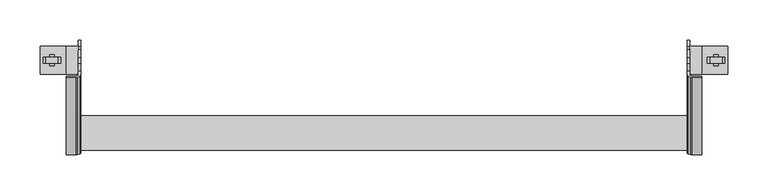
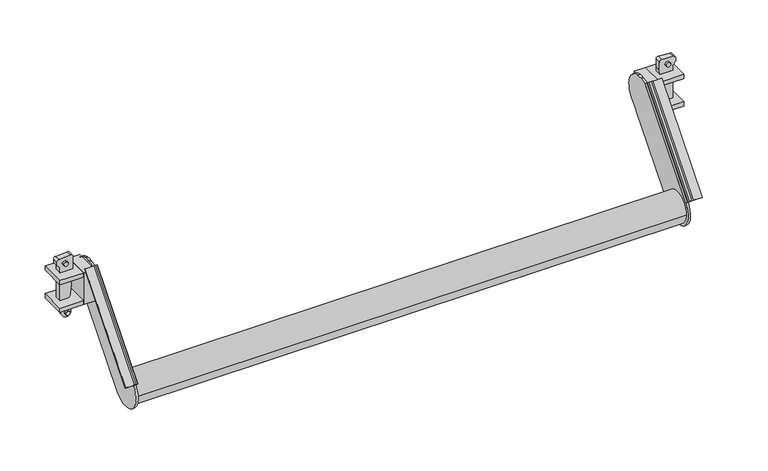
"""IFC4 building model written with IfcOpenShell, lengths in millimetres: proxy geometry, アルバトロスＡＫ階段受け_軽 : アルバトロスＡＫ階段受けL=900."""

from ifc_helpers import new_model, si_unit, point, frame, frame_2d, origin, place, context, project, spatial, polyline, circle_curve, trimmed, segment, composite_curve, outline, extrude, source, transform, mapped, element, save
from ifc_brep_helpers import plane_surface, cylinder_surface, revolved_surface, advanced_brep


def generic_models_1110d281(model_context):
    return source(origin(), model_context, "Body", "SolidModel", [
        extrude(outline(composite_curve([segment(trimmed(circle_curve(frame_2d((11.8000984, -9.7357724)), 9.7357724), [point((11.8000984, 0.0))], [point((14.2492943, -0.3131027))], False, "CARTESIAN"), True, "CONTINUOUS"), segment(trimmed(circle_curve(frame_2d((12.9630797, -6.2319614)), 6.0569989), [point((14.2492943, -0.3131027))], [point((17.1215477, -1.8280564))], False, "CARTESIAN"), True, "CONTINUOUS"), segment(trimmed(circle_curve(frame_2d((14.7414988, -4.3485782)), 3.4666502), [point((17.1215477, -1.8280564))], [point((18.2001533, -4.113266))], False, "CARTESIAN"), True, "CONTINUOUS"), segment(polyline([(18.2001533, -4.113266), (18.2001533, -4.9115919), (18.2001533, -10.0000796), (15.0001259, -10.0000796), (15.0001259, -4.2792333)]), True, "CONTINUOUS"), segment(trimmed(circle_curve(frame_2d((13.1269546, -4.2792333)), 1.8731712), [point((15.0001259, -4.2792333))], [point((14.1616095, -2.7177405))], True, "CARTESIAN"), True, "CONTINUOUS"), segment(trimmed(circle_curve(frame_2d((12.2844233, -5.5507747)), 3.398516), [point((14.1616095, -2.7177405))], [point((13.1884404, -2.2747002))], True, "CARTESIAN"), True, "CONTINUOUS"), segment(trimmed(circle_curve(frame_2d((11.8000984, -6.5851611)), 4.5285281), [point((13.1884404, -2.2747002))], [point((11.8000984, -2.056633))], True, "CARTESIAN"), True, "CONTINUOUS"), segment(polyline([(11.8000984, -2.056633), (0.0, -2.056633), (0.0, 0.0), (11.8000984, 0.0)]), True, "CONTINUOUS")], self_intersect=False)), frame((845.2046585, -117.4153513, -83.5064838), z_axis=(0.0, 0.6426904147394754, 0.766125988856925), x_axis=(-1.0, 0.0, 0.0)), (0.0, 0.0, 1.0), 149.5729326),
        advanced_brep(
        [(827.0045052, -71.4170946, -122.0320182), (827.0045052, -109.7540265, -89.9334299), (827.0045052, -19.1532386, 18.0674174), (827.0045052, -13.564759, 23.0001302), (827.0045052, -4.0000184, 26.6780861), (827.0045052, 4.0000533, 26.678085), (827.0045052, 13.5647929, 23.0001265), (827.0045052, 17.5001651, 19.8536704), (827.0045052, 19.1532686, -14.0675085), (827.0045052, 11.6596821, -23.0002552), (827.0045052, 4.0001362, -32.1309487), (827.0045052, -4.000061, -41.6673923), (830.2045326, -71.4170946, -122.0320182), (830.2045326, -4.000061, -41.6673923), (830.2045326, 4.0672955, -32.0506818), (830.2045326, 11.6596821, -23.0002552), (830.2045326, 19.1532686, -14.0675085), (830.2045326, 17.5001651, 19.8536704), (830.2045326, 13.5647929, 23.0001265), (830.2045326, 4.0000533, 26.678085), (830.2045326, -4.0000184, 26.6780861), (830.2045326, -13.564759, 23.0001302), (830.2045326, -19.1532386, 18.0674174), (830.2045326, -109.7540271, -89.9334352)],
        [
            (0, 1, circle_curve(frame((827.0045052, -90.600769, -106.0008883), z_axis=(-1.0, 0.0, 0.0), x_axis=(0.0, 1.0, 0.0)), 25.0002098)),
            (1, 2),
            (2, 3, circle_curve(frame((827.0045052, 1.42e-05, 1.9999535), z_axis=(-1.0, 0.0, 0.0), x_axis=(0.0, 1.0, 0.0)), 25.0002098)),
            (3, 4, circle_curve(frame((827.0045052, 1.42e-05, 1.9999535), z_axis=(-1.0, 0.0, 0.0), x_axis=(0.0, 1.0, 0.0)), 25.0002098)),
            (4, 5, circle_curve(frame((827.0045052, 1.42e-05, 1.9999535), z_axis=(-1.0, 0.0, 0.0), x_axis=(0.0, 1.0, 0.0)), 25.0002098)),
            (5, 6, circle_curve(frame((827.0045052, 1.42e-05, 1.9999535), z_axis=(-1.0, 0.0, 0.0), x_axis=(0.0, 1.0, 0.0)), 25.0002098)),
            (6, 7, circle_curve(frame((827.0045052, 1.42e-05, 1.9999535), z_axis=(-1.0, 0.0, 0.0), x_axis=(0.0, 1.0, 0.0)), 25.0002098)),
            (7, 8, circle_curve(frame((827.0045052, 1.42e-05, 1.9999535), z_axis=(-1.0, 0.0, 0.0), x_axis=(0.0, 1.0, 0.0)), 25.0002098)),
            (8, 9),
            (9, 10),
            (10, 11),
            (11, 0),
            (12, 13),
            (13, 14),
            (14, 15),
            (15, 16),
            (16, 17, circle_curve(frame((830.2045326, 1.42e-05, 1.9999535), z_axis=(1.0, 0.0, 0.0), x_axis=(0.0, 1.0, 0.0)), 25.0002098)),
            (17, 18, circle_curve(frame((830.2045326, 1.42e-05, 1.9999535), z_axis=(1.0, 0.0, 0.0), x_axis=(0.0, 1.0, 0.0)), 25.0002098)),
            (18, 19, circle_curve(frame((830.2045326, 1.42e-05, 1.9999535), z_axis=(1.0, 0.0, 0.0), x_axis=(0.0, 1.0, 0.0)), 25.0002098)),
            (19, 20, circle_curve(frame((830.2045326, 1.42e-05, 1.9999535), z_axis=(1.0, 0.0, 0.0), x_axis=(0.0, 1.0, 0.0)), 25.0002098)),
            (20, 21, circle_curve(frame((830.2045326, 1.42e-05, 1.9999535), z_axis=(1.0, 0.0, 0.0), x_axis=(0.0, 1.0, 0.0)), 25.0002098)),
            (21, 22, circle_curve(frame((830.2045326, 1.42e-05, 1.9999535), z_axis=(1.0, 0.0, 0.0), x_axis=(0.0, 1.0, 0.0)), 25.0002098)),
            (22, 23),
            (23, 12, circle_curve(frame((830.2045326, -90.600769, -106.0008883), z_axis=(1.0, 0.0, 0.0), x_axis=(0.0, 1.0, 0.0)), 25.0002098)),
            (11, 13),
            (12, 0),
            (10, 14),
            (9, 15),
            (8, 16),
            (7, 17),
            (6, 18),
            (5, 19),
            (4, 20),
            (3, 21),
            (2, 22),
            (1, 23),
        ],
        [
            plane_surface(frame((827.0045052, -65.6005592, -106.0008883), z_axis=(-1.0, 0.0, 0.0), x_axis=(0.0, 0.0, -1.0))),
            plane_surface(frame((830.2045326, -65.6005592, -106.0008883), z_axis=(1.0, 0.0, 0.0), x_axis=(0.0, 0.0, 1.0))),
            plane_surface(frame((827.0045052, -4.000061, -41.6673923), z_axis=(0.0, 0.7661237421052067, -0.6426930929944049), x_axis=(1.0, 0.0, 0.0))),
            plane_surface(frame((827.0045052, 4.0672955, -32.0506818), z_axis=(0.0, 0.7661237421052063, -0.6426930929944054), x_axis=(1.0, 0.0, 0.0))),
            plane_surface(frame((827.0045052, 11.6596821, -23.0002552), z_axis=(0.0, 0.76612771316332, -0.6426883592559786), x_axis=(1.0, 0.0, 0.0))),
            plane_surface(frame((827.0045052, 19.1532686, -14.0675085), z_axis=(0.0, 0.7661237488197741, -0.6426930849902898), x_axis=(1.0, 0.0, 0.0))),
            cylinder_surface(frame((830.2045326, 1.42e-05, 1.9999535), z_axis=(-1.0, 0.0, 0.0), x_axis=(0.0, 1.0, 0.0)), 25.0002098),
            plane_surface(frame((827.0045052, -109.7540271, -89.9334352), z_axis=(0.0, -0.7661236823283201, 0.6426931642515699), x_axis=(1.0, 0.0, 0.0))),
            cylinder_surface(frame((830.2045326, -90.600769, -106.0008883), z_axis=(-1.0, 0.0, 0.0), x_axis=(0.0, 1.0, 0.0)), 25.0002098),
        ],
        [
            (0, [[1, 2, 3, 4, 5, 6, 7, 8, 9, 10, 11, 12]]),
            (1, [[13, 14, 15, 16, 17, 18, 19, 20, 21, 22, 23, 24]]),
            (2, [[-12, 25, -13, 26]]),
            (3, [[-11, 27, -14, -25]]),
            (4, [[-10, 28, -15, -27]]),
            (5, [[-9, 29, -16, -28]]),
            (6, [[-8, 30, -17, -29]]),
            (6, [[-7, 31, -18, -30]]),
            (6, [[-6, 32, -19, -31]]),
            (6, [[-5, 33, -20, -32]]),
            (6, [[-4, 34, -21, -33]]),
            (6, [[-3, 35, -22, -34]]),
            (7, [[-2, 36, -23, -35]]),
            (8, [[-1, -26, -24, -36]]),
        ],
    ),
        extrude(outline(composite_curve([segment(polyline([(-11.8000984, 0.0), (0.0, 0.0), (0.0, -2.056633), (-11.8000984, -2.056633)]), True, "CONTINUOUS"), segment(trimmed(circle_curve(frame_2d((-11.8000984, -6.5851611)), 4.5285281), [point((-11.8000984, -2.056633))], [point((-13.1884404, -2.2747002))], True, "CARTESIAN"), True, "CONTINUOUS"), segment(trimmed(circle_curve(frame_2d((-12.2844233, -5.5507747)), 3.398516), [point((-13.1884404, -2.2747002))], [point((-14.1616095, -2.7177405))], True, "CARTESIAN"), True, "CONTINUOUS"), segment(trimmed(circle_curve(frame_2d((-13.1269546, -4.2792333)), 1.8731712), [point((-14.1616095, -2.7177405))], [point((-15.0001259, -4.2792333))], True, "CARTESIAN"), True, "CONTINUOUS"), segment(polyline([(-15.0001259, -4.2792333), (-15.0001259, -10.0000796), (-18.2001533, -10.0000796), (-18.2001533, -4.9115919), (-18.2001533, -4.113266)]), True, "CONTINUOUS"), segment(trimmed(circle_curve(frame_2d((-14.7414988, -4.3485782)), 3.4666502), [point((-18.2001533, -4.113266))], [point((-17.1215477, -1.8280564))], False, "CARTESIAN"), True, "CONTINUOUS"), segment(trimmed(circle_curve(frame_2d((-12.9630797, -6.2319614)), 6.0569989), [point((-17.1215477, -1.8280564))], [point((-14.2492943, -0.3131027))], False, "CARTESIAN"), True, "CONTINUOUS"), segment(trimmed(circle_curve(frame_2d((-11.8000984, -9.7357724)), 9.7357724), [point((-14.2492943, -0.3131027))], [point((-11.8000984, 0.0))], False, "CARTESIAN"), True, "CONTINUOUS")], self_intersect=False)), frame((54.7953415, -117.4153513, -83.5064838), z_axis=(0.0, 0.6426904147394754, 0.766125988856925), x_axis=(-1.0, 0.0, 0.0)), (0.0, 0.0, 1.0), 149.5729326),
        extrude(outline(polyline([(830.2045326, -17.5001831), (830.2045326, 17.500061), (845.2046585, 17.500061), (845.2046585, -17.5001831), (830.2045326, -17.5001831)])), frame((0.0, 0.0, -23.0001931), z_axis=(0.0, 0.0, 1.0), x_axis=(1.0, 0.0, 0.0)), (0.0, 0.0, 1.0), 46.0003862),
        extrude(outline(polyline([(845.2046585, -17.5001831), (845.2046585, 17.500061), (877.7249298, 17.500061), (877.7249298, -17.5001831), (845.2046585, -17.5001831)])), frame((0.0, 0.0, -23.0001931), z_axis=(0.0, 0.0, 1.0), x_axis=(1.0, 0.0, 0.0)), (0.0, 0.0, 1.0), 6.0000505),
        extrude(outline(polyline([(845.2046585, -17.5001831), (845.2046585, 17.500061), (877.7249298, 17.500061), (877.7249298, -17.5001831), (845.2046585, -17.5001831)])), frame((0.0, 0.0, 17.0001426), z_axis=(0.0, 0.0, 1.0), x_axis=(1.0, 0.0, 0.0)), (0.0, 0.0, 1.0), 6.0000505),
        extrude(outline(composite_curve([segment(trimmed(circle_curve(frame_2d((-36.8688423, 860.6740685)), 3.000025), [point((-36.8688423, 863.6740935))], [point((-36.8688423, 857.6740435))], False, "CARTESIAN"), True, "CONTINUOUS"), segment(trimmed(circle_curve(frame_2d((-36.8688423, 860.6740685)), 3.000025), [point((-36.8688423, 857.6740435))], [point((-36.8688423, 863.6740935))], False, "CARTESIAN"), True, "CONTINUOUS")], self_intersect=False)), frame((0.0, -6.7180681, 0.0), z_axis=(0.0, 1.0, 0.0), x_axis=(0.0, 0.0, 1.0)), (0.0, 0.0, 1.0), 13.4905305),
        extrude(outline(composite_curve([segment(trimmed(circle_curve(frame_2d((35.318295, 863.1048088)), 3.000025), [point((35.318295, 866.1048338))], [point((35.318295, 860.1047838))], False, "CARTESIAN"), True, "CONTINUOUS"), segment(trimmed(circle_curve(frame_2d((35.318295, 863.1048088)), 3.000025), [point((35.318295, 860.1047838))], [point((35.318295, 866.1048338))], False, "CARTESIAN"), True, "CONTINUOUS")], self_intersect=False)), frame((0.0, -6.7180681, 0.0), z_axis=(0.0, 1.0, 0.0), x_axis=(0.0, 0.0, 1.0)), (0.0, 0.0, 1.0), 13.4905305),
        advanced_brep(
        [(870.104866, -4.000061, 23.0001931), (870.104866, -4.000061, 31.3182626), (874.1049004, -4.000061, 35.318295), (874.1049004, -4.000061, 40.1273351), (871.1049024, -4.000061, 43.1273601), (855.1047689, -4.000061, 44.0563686), (852.1047151, -4.000061, 41.0563436), (852.1047134, -4.000061, 29.3182692), (853.2329292, -4.000061, 17.0001426), (855.9327461, -4.000061, -12.4770955), (857.7334455, -4.000061, -17.0001397), (858.6987605, -4.000061, -23.0001924), (857.6076064, -4.000061, -31.3049199), (855.9855849, -4.000061, -33.6219485), (865.2963577, -4.000061, -41.1471163), (870.1048641, -4.000061, -28.9002414), (870.104866, -4.000061, -23.0001922), (870.104866, -4.000061, -17.0001426), (870.104866, -4.000061, 17.0001426), (870.104866, 4.000061, 23.0001931), (870.104866, 4.000061, 17.0001426), (870.104866, 4.000061, -17.0001426), (870.104866, 4.000061, -23.0001922), (870.104866, 4.000061, -28.9002414), (865.2963577, 4.000061, -41.1471163), (855.9855849, 4.000061, -33.6219485), (857.6076064, 4.000061, -31.3049199), (858.6987605, 4.000061, -23.0001924), (857.7334455, 4.000061, -17.0001397), (855.9327461, 4.000061, -12.4770955), (853.2329292, 4.000061, 17.0001426), (852.1047134, 4.000061, 29.3182692), (852.1047134, 4.000061, 41.0563436), (855.1047689, 4.000061, 44.0563686), (871.1049024, 4.000061, 43.1273601), (874.1048987, 4.000061, 40.1273351), (874.1049004, 4.000061, 35.318295), (870.104866, 4.000061, 31.3182626)],
        [
            (0, 1),
            (1, 2),
            (2, 3),
            (3, 4, circle_curve(frame((871.1048737, -4.000061, 40.1273351), z_axis=(0.0, -1.0, 0.0), x_axis=(-1.0, 0.0, 0.0)), 3.000025)),
            (4, 5),
            (5, 6, circle_curve(frame((855.1047401, -4.000061, 41.0563436), z_axis=(0.0, -1.0, 0.0), x_axis=(-1.0, 0.0, 0.0)), 3.000025)),
            (6, 7),
            (7, 8),
            (8, 9),
            (9, 10, circle_curve(frame((833.7162895, -4.000061, -23.9418044), z_axis=(0.0, 1.0, 0.0), x_axis=(-1.0, 0.0, 0.0)), 25.0002098)),
            (10, 11),
            (11, 12, circle_curve(frame((833.7162895, -4.000061, -23.9418044), z_axis=(0.0, 1.0, 0.0), x_axis=(-1.0, 0.0, 0.0)), 25.0002098)),
            (12, 13),
            (13, 14, circle_curve(frame((860.9008598, -4.000061, -37.0629764), z_axis=(0.0, -1.0, 0.0), x_axis=(-1.0, 0.0, 0.0)), 6.0000501)),
            (14, 15, circle_curve(frame((852.1047134, -4.000061, -28.9002414), z_axis=(0.0, -1.0, 0.0), x_axis=(-1.0, 0.0, 0.0)), 18.0001507)),
            (15, 16),
            (16, 17),
            (17, 18),
            (18, 0),
            (19, 20),
            (20, 21),
            (21, 22),
            (22, 23),
            (23, 24, circle_curve(frame((852.1047134, 4.000061, -28.9002414), z_axis=(0.0, 1.0, 0.0), x_axis=(-1.0, 0.0, 0.0)), 18.0001507)),
            (24, 25, circle_curve(frame((860.9008598, 4.000061, -37.0629764), z_axis=(0.0, 1.0, 0.0), x_axis=(-1.0, 0.0, 0.0)), 6.0000501)),
            (25, 26),
            (26, 27, circle_curve(frame((833.7162895, 4.000061, -23.9418044), z_axis=(0.0, -1.0, 0.0), x_axis=(-1.0, 0.0, 0.0)), 25.0002098)),
            (27, 28),
            (28, 29, circle_curve(frame((833.7162895, 4.000061, -23.9418044), z_axis=(0.0, -1.0, 0.0), x_axis=(-1.0, 0.0, 0.0)), 25.0002098)),
            (29, 30),
            (30, 31),
            (31, 32),
            (32, 33, circle_curve(frame((855.1047401, 4.000061, 41.0563436), z_axis=(0.0, 1.0, 0.0), x_axis=(-1.0, 0.0, 0.0)), 3.000025)),
            (33, 34),
            (34, 35, circle_curve(frame((871.1048737, 4.000061, 40.1273351), z_axis=(0.0, 1.0, 0.0), x_axis=(-1.0, 0.0, 0.0)), 3.000025)),
            (35, 36),
            (36, 37),
            (37, 19),
            (18, 20),
            (19, 0),
            (17, 21),
            (16, 22),
            (15, 23),
            (14, 24),
            (13, 25),
            (12, 26),
            (11, 27),
            (10, 28),
            (9, 29),
            (8, 30),
            (7, 31),
            (6, 32),
            (5, 33),
            (4, 34),
            (3, 35),
            (2, 36),
            (1, 37),
        ],
        [
            plane_surface(frame((870.104866, -4.000061, 31.3182626), z_axis=(0.0, -1.0, 0.0), x_axis=(0.0, 0.0, 1.0))),
            plane_surface(frame((870.104866, 4.000061, 31.3182626), z_axis=(0.0, 1.0, 0.0), x_axis=(0.0, 0.0, -1.0))),
            plane_surface(frame((870.104866, -4.000061, 17.0001426), z_axis=(1.0, 0.0, 0.0), x_axis=(0.0, 1.0, 0.0))),
            plane_surface(frame((870.104866, -4.000061, -17.0001426), z_axis=(1.0, 0.0, 0.0), x_axis=(0.0, 1.0, 0.0))),
            plane_surface(frame((870.104866, -4.000061, -23.0001922), z_axis=(1.0, 0.0, 0.0), x_axis=(0.0, 1.0, 0.0))),
            plane_surface(frame((870.104866, -4.000061, -28.9002414), z_axis=(1.0, 0.0, 0.0), x_axis=(0.0, 1.0, 0.0))),
            cylinder_surface(frame((852.1047134, 4.000061, -28.9002414), z_axis=(0.0, -1.0, 0.0), x_axis=(-1.0, 0.0, 0.0)), 18.0001507),
            cylinder_surface(frame((860.9008598, 4.000061, -37.0629764), z_axis=(0.0, -1.0, 0.0), x_axis=(-1.0, 0.0, 0.0)), 6.0000501),
            plane_surface(frame((857.6076064, -4.000061, -31.3049199), z_axis=(-0.8192150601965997, 0.0, 0.5734864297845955), x_axis=(0.0, 1.0, 0.0))),
            revolved_surface(polyline([(808.7160797, 4.000061, -23.9418044), (808.7160797, -4.000061, -23.9418044)]), (833.7162895, 4.000061, -23.9418044), (0.0, 1.0, 0.0)),
            plane_surface(frame((857.7334455, -4.000061, -17.0001397), z_axis=(-0.9873040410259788, 0.0, -0.15884184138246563), x_axis=(0.0, 1.0, 0.0))),
            plane_surface(frame((853.2329292, -4.000061, 17.0001426), z_axis=(-0.9958318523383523, 0.0, -0.0912081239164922), x_axis=(0.0, 1.0, 0.0))),
            plane_surface(frame((852.1047134, -4.000061, 29.3182692), z_axis=(-0.9958318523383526, 0.0, -0.09120812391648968), x_axis=(0.0, 1.0, 0.0))),
            plane_surface(frame((852.1047134, -4.000061, 41.0563436), z_axis=(-1.0, 0.0, 0.0), x_axis=(0.0, 1.0, 0.0))),
            cylinder_surface(frame((855.1047401, 4.000061, 41.0563436), z_axis=(0.0, -1.0, 0.0), x_axis=(-1.0, 0.0, 0.0)), 3.000025),
            plane_surface(frame((871.1049024, -4.000061, 43.1273601), z_axis=(0.05796492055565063, 0.0, 0.9983186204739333), x_axis=(0.0, 1.0, 0.0))),
            cylinder_surface(frame((871.1048737, 4.000061, 40.1273351), z_axis=(0.0, -1.0, 0.0), x_axis=(-1.0, 0.0, 0.0)), 3.000025),
            plane_surface(frame((874.1049004, -4.000061, 35.318295), z_axis=(1.0, 0.0, 0.0), x_axis=(0.0, 1.0, 0.0))),
            plane_surface(frame((870.104866, -4.000061, 31.3182626), z_axis=(0.7071066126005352, 0.0, -0.7071069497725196), x_axis=(0.0, 1.0, 0.0))),
            plane_surface(frame((870.104866, -4.000061, 23.0001931), z_axis=(1.0, 0.0, 0.0), x_axis=(0.0, 1.0, 0.0))),
        ],
        [
            (0, [[1, 2, 3, 4, 5, 6, 7, 8, 9, 10, 11, 12, 13, 14, 15, 16, 17, 18, 19]]),
            (1, [[20, 21, 22, 23, 24, 25, 26, 27, 28, 29, 30, 31, 32, 33, 34, 35, 36, 37, 38]]),
            (2, [[-19, 39, -20, 40]]),
            (3, [[-18, 41, -21, -39]]),
            (4, [[-17, 42, -22, -41]]),
            (5, [[-16, 43, -23, -42]]),
            (6, [[-15, 44, -24, -43]]),
            (7, [[-14, 45, -25, -44]]),
            (8, [[-13, 46, -26, -45]]),
            (9, [[-12, 47, -27, -46]]),
            (10, [[-11, 48, -28, -47]]),
            (9, [[-10, 49, -29, -48]]),
            (11, [[-9, 50, -30, -49]]),
            (12, [[-8, 51, -31, -50]]),
            (13, [[-7, 52, -32, -51]]),
            (14, [[-6, 53, -33, -52]]),
            (15, [[-5, 54, -34, -53]]),
            (16, [[-4, 55, -35, -54]]),
            (17, [[-3, 56, -36, -55]]),
            (18, [[-2, 57, -37, -56]]),
            (19, [[-1, -40, -38, -57]]),
        ],
    ),
        extrude(outline(polyline([(69.7954674, 17.500061), (69.7954674, -17.5001831), (54.7953415, -17.5001831), (54.7953415, 17.500061), (69.7954674, 17.500061)])), frame((0.0, 0.0, -23.0001931), z_axis=(0.0, 0.0, 1.0), x_axis=(1.0, 0.0, 0.0)), (0.0, 0.0, 1.0), 46.0003862),
        extrude(outline(polyline([(54.7953415, 17.500061), (54.7953415, -17.5001831), (22.2750702, -17.5001831), (22.2750702, 17.500061), (54.7953415, 17.500061)])), frame((0.0, 0.0, -23.0001931), z_axis=(0.0, 0.0, 1.0), x_axis=(1.0, 0.0, 0.0)), (0.0, 0.0, 1.0), 6.0000505),
        extrude(outline(polyline([(54.7953415, 17.500061), (54.7953415, -17.5001831), (22.2750702, -17.5001831), (22.2750702, 17.500061), (54.7953415, 17.500061)])), frame((0.0, 0.0, 17.0001426), z_axis=(0.0, 0.0, 1.0), x_axis=(1.0, 0.0, 0.0)), (0.0, 0.0, 1.0), 6.0000505),
        extrude(outline(composite_curve([segment(trimmed(circle_curve(frame_2d((-36.8688423, 39.3259315)), 3.000025), [point((-36.8688423, 36.3259065))], [point((-36.8688423, 42.3259565))], False, "CARTESIAN"), True, "CONTINUOUS"), segment(trimmed(circle_curve(frame_2d((-36.8688423, 39.3259315)), 3.000025), [point((-36.8688423, 42.3259565))], [point((-36.8688423, 36.3259065))], False, "CARTESIAN"), True, "CONTINUOUS")], self_intersect=False)), frame((0.0, -6.7180681, 0.0), z_axis=(0.0, 1.0, 0.0), x_axis=(0.0, 0.0, 1.0)), (0.0, 0.0, 1.0), 13.4905305),
        extrude(outline(composite_curve([segment(trimmed(circle_curve(frame_2d((35.318295, 36.8951912)), 3.000025), [point((35.318295, 33.8951662))], [point((35.318295, 39.8952162))], False, "CARTESIAN"), True, "CONTINUOUS"), segment(trimmed(circle_curve(frame_2d((35.318295, 36.8951912)), 3.000025), [point((35.318295, 39.8952162))], [point((35.318295, 33.8951662))], False, "CARTESIAN"), True, "CONTINUOUS")], self_intersect=False)), frame((0.0, -6.7180681, 0.0), z_axis=(0.0, 1.0, 0.0), x_axis=(0.0, 0.0, 1.0)), (0.0, 0.0, 1.0), 13.4905305),
        advanced_brep(
        [(29.895134, -4.000061, 23.0001931), (29.895134, -4.000061, 17.0001426), (29.895134, -4.000061, -17.0001426), (29.895134, -4.000061, -23.0001922), (29.895134, -4.000061, -28.9002414), (34.7036423, -4.000061, -41.1471163), (44.0144151, -4.000061, -33.6219485), (42.3923936, -4.000061, -31.3049199), (41.3012395, -4.000061, -23.0001924), (42.2665545, -4.000061, -17.0001397), (44.0672539, -4.000061, -12.4770955), (46.7670708, -4.000061, 17.0001426), (47.8952866, -4.000061, 29.3182692), (47.8952866, -4.000061, 41.0563436), (44.8952311, -4.000061, 44.0563686), (28.8950976, -4.000061, 43.1273601), (25.8951013, -4.000061, 40.1273351), (25.8950996, -4.000061, 35.318295), (29.895134, -4.000061, 31.3182626), (29.895134, 4.000061, 23.0001931), (29.895134, 4.000061, 31.3182626), (25.8950996, 4.000061, 35.318295), (25.8950996, 4.000061, 40.1273351), (28.8950976, 4.000061, 43.1273601), (44.8952311, 4.000061, 44.0563686), (47.8952849, 4.000061, 41.0563436), (47.8952866, 4.000061, 29.3182692), (46.7670708, 4.000061, 17.0001426), (44.0672539, 4.000061, -12.4770955), (42.2665545, 4.000061, -17.0001397), (41.3012395, 4.000061, -23.0001924), (42.3923936, 4.000061, -31.3049199), (44.0144157, 4.000061, -33.6219478), (34.7036423, 4.000061, -41.1471163), (29.8951359, 4.000061, -28.9002414), (29.895134, 4.000061, -23.0001922), (29.895134, 4.000061, -17.0001426), (29.895134, 4.000061, 17.0001426)],
        [
            (0, 1),
            (1, 2),
            (2, 3),
            (3, 4),
            (4, 5, circle_curve(frame((47.8952866, -4.000061, -28.9002414), z_axis=(0.0, -1.0, 0.0), x_axis=(1.0, 0.0, 0.0)), 18.0001507)),
            (5, 6, circle_curve(frame((39.0991402, -4.000061, -37.0629764), z_axis=(0.0, -1.0, 0.0), x_axis=(1.0, 0.0, 0.0)), 6.0000501)),
            (6, 7),
            (7, 8, circle_curve(frame((66.2837105, -4.000061, -23.9418044), z_axis=(0.0, 1.0, 0.0), x_axis=(1.0, 0.0, 0.0)), 25.0002098)),
            (8, 9),
            (9, 10, circle_curve(frame((66.2837105, -4.000061, -23.9418044), z_axis=(0.0, 1.0, 0.0), x_axis=(1.0, 0.0, 0.0)), 25.0002098)),
            (10, 11),
            (11, 12),
            (12, 13),
            (13, 14, circle_curve(frame((44.8952599, -4.000061, 41.0563436), z_axis=(0.0, -1.0, 0.0), x_axis=(1.0, 0.0, 0.0)), 3.000025)),
            (14, 15),
            (15, 16, circle_curve(frame((28.8951263, -4.000061, 40.1273351), z_axis=(0.0, -1.0, 0.0), x_axis=(1.0, 0.0, 0.0)), 3.000025)),
            (16, 17),
            (17, 18),
            (18, 0),
            (19, 20),
            (20, 21),
            (21, 22),
            (22, 23, circle_curve(frame((28.8951263, 4.000061, 40.1273351), z_axis=(0.0, 1.0, 0.0), x_axis=(1.0, 0.0, 0.0)), 3.000025)),
            (23, 24),
            (24, 25, circle_curve(frame((44.8952599, 4.000061, 41.0563436), z_axis=(0.0, 1.0, 0.0), x_axis=(1.0, 0.0, 0.0)), 3.000025)),
            (25, 26),
            (26, 27),
            (27, 28),
            (28, 29, circle_curve(frame((66.2837105, 4.000061, -23.9418044), z_axis=(0.0, -1.0, 0.0), x_axis=(1.0, 0.0, 0.0)), 25.0002098)),
            (29, 30),
            (30, 31, circle_curve(frame((66.2837105, 4.000061, -23.9418044), z_axis=(0.0, -1.0, 0.0), x_axis=(1.0, 0.0, 0.0)), 25.0002098)),
            (31, 32),
            (32, 33, circle_curve(frame((39.0991402, 4.000061, -37.0629764), z_axis=(0.0, 1.0, 0.0), x_axis=(1.0, 0.0, 0.0)), 6.0000501)),
            (33, 34, circle_curve(frame((47.8952866, 4.000061, -28.9002414), z_axis=(0.0, 1.0, 0.0), x_axis=(1.0, 0.0, 0.0)), 18.0001507)),
            (34, 35),
            (35, 36),
            (36, 37),
            (37, 19),
            (0, 19),
            (37, 1),
            (36, 2),
            (35, 3),
            (34, 4),
            (33, 5),
            (32, 6),
            (31, 7),
            (30, 8),
            (29, 9),
            (28, 10),
            (27, 11),
            (26, 12),
            (25, 13),
            (24, 14),
            (23, 15),
            (22, 16),
            (21, 17),
            (20, 18),
        ],
        [
            plane_surface(frame((29.895134, -4.000061, 17.0001426), z_axis=(0.0, -1.0, 0.0), x_axis=(0.0, 0.0, -1.0))),
            plane_surface(frame((29.895134, 4.000061, 17.0001426), z_axis=(0.0, 1.0, 0.0), x_axis=(0.0, 0.0, 1.0))),
            plane_surface(frame((29.895134, -4.000061, 23.0001931), z_axis=(-1.0, 0.0, 0.0), x_axis=(0.0, 1.0, 0.0))),
            plane_surface(frame((29.895134, -4.000061, 17.0001426), z_axis=(-1.0, 0.0, 0.0), x_axis=(0.0, 1.0, 0.0))),
            plane_surface(frame((29.895134, -4.000061, -17.0001426), z_axis=(-1.0, 0.0, 0.0), x_axis=(0.0, 1.0, 0.0))),
            plane_surface(frame((29.895134, -4.000061, -23.0001922), z_axis=(-1.0, 0.0, 0.0), x_axis=(0.0, 1.0, 0.0))),
            cylinder_surface(frame((47.8952866, 4.000061, -28.9002414), z_axis=(0.0, -1.0, 0.0), x_axis=(1.0, 0.0, 0.0)), 18.0001507),
            cylinder_surface(frame((39.0991402, 4.000061, -37.0629764), z_axis=(0.0, -1.0, 0.0), x_axis=(1.0, 0.0, 0.0)), 6.0000501),
            plane_surface(frame((44.0144157, -4.000061, -33.6219478), z_axis=(0.8192148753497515, 0.0, 0.5734866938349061), x_axis=(0.0, 1.0, 0.0))),
            revolved_surface(polyline([(91.2839203, 4.000061, -23.9418044), (91.2839203, -4.000061, -23.9418044)]), (66.2837105, 4.000061, -23.9418044), (0.0, 1.0, 0.0)),
            plane_surface(frame((41.3012395, -4.000061, -23.0001924), z_axis=(0.9873040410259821, 0.0, -0.15884184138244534), x_axis=(0.0, 1.0, 0.0))),
            plane_surface(frame((44.0672539, -4.000061, -12.4770955), z_axis=(0.9958318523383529, 0.0, -0.09120812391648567), x_axis=(0.0, 1.0, 0.0))),
            plane_surface(frame((46.7670708, -4.000061, 17.0001426), z_axis=(0.9958318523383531, 0.0, -0.09120812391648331), x_axis=(0.0, 1.0, 0.0))),
            plane_surface(frame((47.8952866, -4.000061, 29.3182692), z_axis=(1.0, 0.0, 0.0), x_axis=(0.0, 1.0, 0.0))),
            cylinder_surface(frame((44.8952599, 4.000061, 41.0563436), z_axis=(0.0, -1.0, 0.0), x_axis=(1.0, 0.0, 0.0)), 3.000025),
            plane_surface(frame((44.8952311, -4.000061, 44.0563686), z_axis=(-0.05796492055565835, 0.0, 0.9983186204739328), x_axis=(0.0, 1.0, 0.0))),
            cylinder_surface(frame((28.8951263, 4.000061, 40.1273351), z_axis=(0.0, -1.0, 0.0), x_axis=(1.0, 0.0, 0.0)), 3.000025),
            plane_surface(frame((25.8950996, -4.000061, 40.1273351), z_axis=(-1.0, 0.0, 0.0), x_axis=(0.0, 1.0, 0.0))),
            plane_surface(frame((25.8950996, -4.000061, 35.318295), z_axis=(-0.7071066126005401, 0.0, -0.7071069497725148), x_axis=(0.0, 1.0, 0.0))),
            plane_surface(frame((29.895134, -4.000061, 31.3182626), z_axis=(-1.0, 0.0, 0.0), x_axis=(0.0, 1.0, 0.0))),
        ],
        [
            (0, [[1, 2, 3, 4, 5, 6, 7, 8, 9, 10, 11, 12, 13, 14, 15, 16, 17, 18, 19]]),
            (1, [[20, 21, 22, 23, 24, 25, 26, 27, 28, 29, 30, 31, 32, 33, 34, 35, 36, 37, 38]]),
            (2, [[-1, 39, -38, 40]]),
            (3, [[-2, -40, -37, 41]]),
            (4, [[-3, -41, -36, 42]]),
            (5, [[-4, -42, -35, 43]]),
            (6, [[-5, -43, -34, 44]]),
            (7, [[-6, -44, -33, 45]]),
            (8, [[-7, -45, -32, 46]]),
            (9, [[-8, -46, -31, 47]]),
            (10, [[-9, -47, -30, 48]]),
            (9, [[-10, -48, -29, 49]]),
            (11, [[-11, -49, -28, 50]]),
            (12, [[-12, -50, -27, 51]]),
            (13, [[-13, -51, -26, 52]]),
            (14, [[-14, -52, -25, 53]]),
            (15, [[-15, -53, -24, 54]]),
            (16, [[-16, -54, -23, 55]]),
            (17, [[-17, -55, -22, 56]]),
            (18, [[-18, -56, -21, 57]]),
            (19, [[-19, -57, -20, -39]]),
        ],
    ),
        advanced_brep(
        [(72.9954948, -71.4170946, -122.0320182), (72.9954948, -4.000061, -41.6673923), (72.9954948, 4.0672955, -32.0506818), (72.9954948, 11.6596069, -23.0001922), (72.9954948, 19.1531934, -14.0674454), (72.9954948, 17.5000899, 19.8537334), (72.9954948, 13.5647177, 23.0001896), (72.9954948, 3.9999781, 26.6781481), (72.9954948, -4.0000936, 26.6781492), (72.9954948, -13.5648342, 23.0001932), (72.9954948, -19.1533138, 18.0674805), (72.9954948, -109.7541023, -89.9333721), (69.7954674, -71.4170946, -122.0320182), (69.7954674, -109.7540265, -89.9334299), (69.7954674, -19.1533138, 18.0674805), (69.7954674, -13.5648342, 23.0001932), (69.7954674, -4.0000936, 26.6781492), (69.7954674, 3.9999781, 26.6781481), (69.7954674, 13.5647177, 23.0001896), (69.7954674, 17.5000899, 19.8537334), (69.7954674, 19.1531934, -14.0674454), (69.7954674, 11.6596069, -23.0001922), (69.7954674, 4.000061, -32.1308856), (69.7954674, -4.000061, -41.6673923)],
        [
            (0, 1),
            (1, 2),
            (2, 3),
            (3, 4),
            (4, 5, circle_curve(frame((72.9954948, -6.1e-05, 2.0000166), z_axis=(1.0, 0.0, 0.0), x_axis=(0.0, 1.0, 0.0)), 25.0002098)),
            (5, 6, circle_curve(frame((72.9954948, -6.1e-05, 2.0000166), z_axis=(1.0, 0.0, 0.0), x_axis=(0.0, 1.0, 0.0)), 25.0002098)),
            (6, 7, circle_curve(frame((72.9954948, -6.1e-05, 2.0000166), z_axis=(1.0, 0.0, 0.0), x_axis=(0.0, 1.0, 0.0)), 25.0002098)),
            (7, 8, circle_curve(frame((72.9954948, -6.1e-05, 2.0000166), z_axis=(1.0, 0.0, 0.0), x_axis=(0.0, 1.0, 0.0)), 25.0002098)),
            (8, 9, circle_curve(frame((72.9954948, -6.1e-05, 2.0000166), z_axis=(1.0, 0.0, 0.0), x_axis=(0.0, 1.0, 0.0)), 25.0002098)),
            (9, 10, circle_curve(frame((72.9954948, -6.1e-05, 2.0000166), z_axis=(1.0, 0.0, 0.0), x_axis=(0.0, 1.0, 0.0)), 25.0002098)),
            (10, 11),
            (11, 0, circle_curve(frame((72.9954948, -90.600769, -106.0008883), z_axis=(1.0, 0.0, 0.0), x_axis=(0.0, 1.0, 0.0)), 25.0002098)),
            (12, 13, circle_curve(frame((69.7954674, -90.600769, -106.0008883), z_axis=(-1.0, 0.0, 0.0), x_axis=(0.0, 1.0, 0.0)), 25.0002098)),
            (13, 14),
            (14, 15, circle_curve(frame((69.7954674, -6.1e-05, 2.0000166), z_axis=(-1.0, 0.0, 0.0), x_axis=(0.0, 1.0, 0.0)), 25.0002098)),
            (15, 16, circle_curve(frame((69.7954674, -6.1e-05, 2.0000166), z_axis=(-1.0, 0.0, 0.0), x_axis=(0.0, 1.0, 0.0)), 25.0002098)),
            (16, 17, circle_curve(frame((69.7954674, -6.1e-05, 2.0000166), z_axis=(-1.0, 0.0, 0.0), x_axis=(0.0, 1.0, 0.0)), 25.0002098)),
            (17, 18, circle_curve(frame((69.7954674, -6.1e-05, 2.0000166), z_axis=(-1.0, 0.0, 0.0), x_axis=(0.0, 1.0, 0.0)), 25.0002098)),
            (18, 19, circle_curve(frame((69.7954674, -6.1e-05, 2.0000166), z_axis=(-1.0, 0.0, 0.0), x_axis=(0.0, 1.0, 0.0)), 25.0002098)),
            (19, 20, circle_curve(frame((69.7954674, -6.1e-05, 2.0000166), z_axis=(-1.0, 0.0, 0.0), x_axis=(0.0, 1.0, 0.0)), 25.0002098)),
            (20, 21),
            (21, 22),
            (22, 23),
            (23, 12),
            (0, 12),
            (23, 1),
            (22, 2),
            (21, 3),
            (20, 4),
            (19, 5),
            (18, 6),
            (17, 7),
            (16, 8),
            (15, 9),
            (14, 10),
            (13, 11),
        ],
        [
            plane_surface(frame((72.9954948, -71.4475708, -122.0683475), z_axis=(1.0, 0.0, 0.0), x_axis=(0.0, 0.6426930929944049, 0.7661237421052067))),
            plane_surface(frame((69.7954674, -71.4475708, -122.0683475), z_axis=(-1.0, 0.0, 0.0), x_axis=(0.0, -0.6426930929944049, -0.7661237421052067))),
            plane_surface(frame((72.9954948, -71.4170946, -122.0320182), z_axis=(0.0, 0.7661237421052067, -0.6426930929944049), x_axis=(-1.0, 0.0, 0.0))),
            plane_surface(frame((72.9954948, -4.000061, -41.6673923), z_axis=(0.0, 0.7661237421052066, -0.642693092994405), x_axis=(-1.0, 0.0, 0.0))),
            plane_surface(frame((72.9954948, 4.000061, -32.1308856), z_axis=(0.0, 0.76612771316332, -0.6426883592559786), x_axis=(-1.0, 0.0, 0.0))),
            plane_surface(frame((72.9954948, 11.6596069, -23.0001922), z_axis=(0.0, 0.7661237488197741, -0.6426930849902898), x_axis=(-1.0, 0.0, 0.0))),
            cylinder_surface(frame((69.7954674, -6.1e-05, 2.0000166), z_axis=(1.0, 0.0, 0.0), x_axis=(0.0, 1.0, 0.0)), 25.0002098),
            plane_surface(frame((72.9954948, -19.1533138, 18.0674805), z_axis=(0.0, -0.7661236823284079, 0.6426931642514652), x_axis=(-1.0, 0.0, 0.0))),
            cylinder_surface(frame((69.7954674, -90.600769, -106.0008883), z_axis=(1.0, 0.0, 0.0), x_axis=(0.0, 1.0, 0.0)), 25.0002098),
        ],
        [
            (0, [[1, 2, 3, 4, 5, 6, 7, 8, 9, 10, 11, 12]]),
            (1, [[13, 14, 15, 16, 17, 18, 19, 20, 21, 22, 23, 24]]),
            (2, [[-1, 25, -24, 26]]),
            (3, [[-2, -26, -23, 27]]),
            (4, [[-3, -27, -22, 28]]),
            (5, [[-4, -28, -21, 29]]),
            (6, [[-5, -29, -20, 30]]),
            (6, [[-6, -30, -19, 31]]),
            (6, [[-7, -31, -18, 32]]),
            (6, [[-8, -32, -17, 33]]),
            (6, [[-9, -33, -16, 34]]),
            (6, [[-10, -34, -15, 35]]),
            (7, [[-11, -35, -14, 36]]),
            (8, [[-12, -36, -13, -25]]),
        ],
    ),
        extrude(outline(composite_curve([segment(trimmed(circle_curve(frame_2d((-90.6008005, -106.000888)), 21.35), [point((-111.9508005, -106.000888))], [point((-69.2508005, -106.000888))], False, "CARTESIAN"), True, "CONTINUOUS"), segment(trimmed(circle_curve(frame_2d((-90.6008005, -106.000888)), 21.35), [point((-69.2508005, -106.000888))], [point((-111.9508005, -106.000888))], False, "CARTESIAN"), True, "CONTINUOUS")], self_intersect=False)), frame((72.9954948, 0.0, 0.0), z_axis=(1.0, 0.0, 0.0), x_axis=(0.0, 1.0, 0.0)), (0.0, 0.0, 1.0), 754.0090103),
    ])


if __name__ == "__main__":
    model = new_model("IFC4")
    model_context = context("Model", 3, world=origin())
    ifc_project = project(units=[si_unit("LENGTHUNIT", "METRE", prefix="MILLI")], contexts=[model_context])
    site = spatial("IfcSite", under=ifc_project)
    building = spatial("IfcBuilding", under=site)
    placement = place(None, origin())
    generic_models_shape = generic_models_1110d281(model_context)
    element("IfcBuildingElementProxy", 1, Name="アルバトロスＡＫ階段受け_軽 : アルバトロスＡＫ階段受けL=900", ObjectType="アルバトロスＡＫ階段受け_軽 : アルバトロスＡＫ階段受けL=900", at=placement, inside=building, context=model_context, shape_type="MappedRepresentation", body=[
        mapped(generic_models_shape, transform((0.0, 0.0, 0.0), x_axis=(1.0, 0.0, 0.0), y_axis=(0.0, 1.0, 0.0), z_axis=(0.0, 0.0, 1.0))),
    ])
    save(model, "model.ifc")
